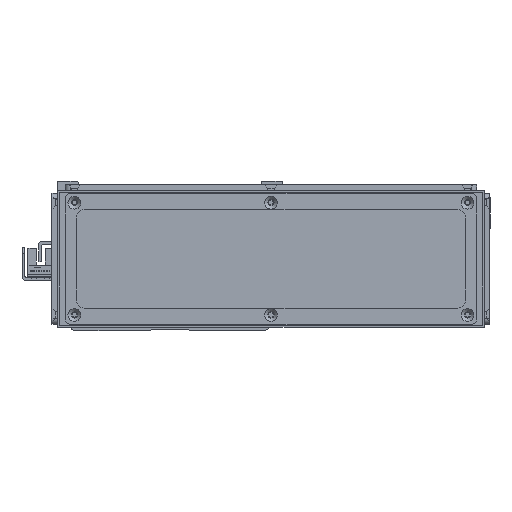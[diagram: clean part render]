
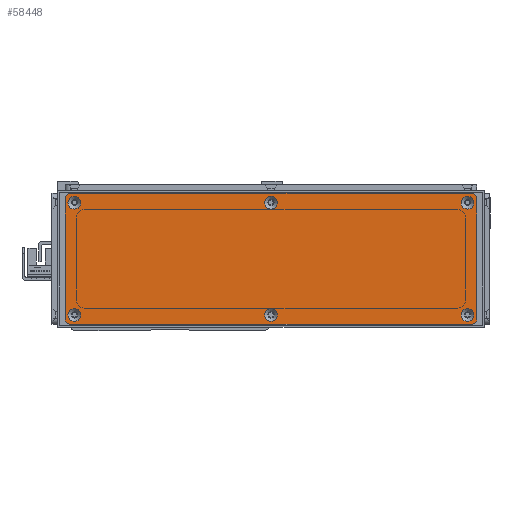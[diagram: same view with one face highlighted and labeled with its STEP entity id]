
A CAD part, front view. The second image highlights one B-rep face of the part: STEP entity #58448.
In plain terms, the highlighted planar face has unit normal (0, -1, 0).
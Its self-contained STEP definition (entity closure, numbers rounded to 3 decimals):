
#2515=FACE_BOUND('',#10032,.T.);
#2516=FACE_BOUND('',#10033,.T.);
#2517=FACE_BOUND('',#10034,.T.);
#2518=FACE_BOUND('',#10035,.T.);
#2519=FACE_BOUND('',#10036,.T.);
#2520=FACE_BOUND('',#10037,.T.);
#3803=CIRCLE('',#62986,3.45);
#3806=CIRCLE('',#62991,3.45);
#3809=CIRCLE('',#62996,3.45);
#3812=CIRCLE('',#63001,3.45);
#3815=CIRCLE('',#63006,3.45);
#3818=CIRCLE('',#63011,3.45);
#3821=CIRCLE('',#63016,3.);
#3823=CIRCLE('',#63019,3.);
#3824=CIRCLE('',#63020,3.);
#3825=CIRCLE('',#63021,3.);
#6681=FACE_OUTER_BOUND('',#10031,.T.);
#10031=EDGE_LOOP('',(#52827,#52828,#52829,#52830,#52831,#52832,#52833,#52834));
#10032=EDGE_LOOP('',(#52835));
#10033=EDGE_LOOP('',(#52836));
#10034=EDGE_LOOP('',(#52837));
#10035=EDGE_LOOP('',(#52838));
#10036=EDGE_LOOP('',(#52839));
#10037=EDGE_LOOP('',(#52840));
#16538=LINE('',#97734,#23094);
#16539=LINE('',#97738,#23095);
#16540=LINE('',#97742,#23096);
#16541=LINE('',#97745,#23097);
#23094=VECTOR('',#77733,10.);
#23095=VECTOR('',#77736,10.);
#23096=VECTOR('',#77739,10.);
#23097=VECTOR('',#77742,10.);
#28607=VERTEX_POINT('',#97664);
#28610=VERTEX_POINT('',#97674);
#28613=VERTEX_POINT('',#97684);
#28616=VERTEX_POINT('',#97694);
#28619=VERTEX_POINT('',#97704);
#28622=VERTEX_POINT('',#97714);
#28625=VERTEX_POINT('',#97724);
#28626=VERTEX_POINT('',#97725);
#28629=VERTEX_POINT('',#97733);
#28630=VERTEX_POINT('',#97735);
#28631=VERTEX_POINT('',#97737);
#28632=VERTEX_POINT('',#97739);
#28633=VERTEX_POINT('',#97741);
#28634=VERTEX_POINT('',#97743);
#36707=EDGE_CURVE('',#28607,#28607,#3803,.T.);
#36712=EDGE_CURVE('',#28610,#28610,#3806,.T.);
#36717=EDGE_CURVE('',#28613,#28613,#3809,.T.);
#36722=EDGE_CURVE('',#28616,#28616,#3812,.T.);
#36727=EDGE_CURVE('',#28619,#28619,#3815,.T.);
#36732=EDGE_CURVE('',#28622,#28622,#3818,.T.);
#36737=EDGE_CURVE('',#28625,#28626,#3821,.T.);
#36741=EDGE_CURVE('',#28625,#28629,#16538,.T.);
#36742=EDGE_CURVE('',#28630,#28629,#3823,.T.);
#36743=EDGE_CURVE('',#28630,#28631,#16539,.T.);
#36744=EDGE_CURVE('',#28632,#28631,#3824,.T.);
#36745=EDGE_CURVE('',#28632,#28633,#16540,.T.);
#36746=EDGE_CURVE('',#28634,#28633,#3825,.T.);
#36747=EDGE_CURVE('',#28634,#28626,#16541,.T.);
#52827=ORIENTED_EDGE('',*,*,#36737,.F.);
#52828=ORIENTED_EDGE('',*,*,#36741,.T.);
#52829=ORIENTED_EDGE('',*,*,#36742,.F.);
#52830=ORIENTED_EDGE('',*,*,#36743,.T.);
#52831=ORIENTED_EDGE('',*,*,#36744,.F.);
#52832=ORIENTED_EDGE('',*,*,#36745,.T.);
#52833=ORIENTED_EDGE('',*,*,#36746,.F.);
#52834=ORIENTED_EDGE('',*,*,#36747,.T.);
#52835=ORIENTED_EDGE('',*,*,#36707,.T.);
#52836=ORIENTED_EDGE('',*,*,#36712,.T.);
#52837=ORIENTED_EDGE('',*,*,#36717,.T.);
#52838=ORIENTED_EDGE('',*,*,#36722,.T.);
#52839=ORIENTED_EDGE('',*,*,#36727,.T.);
#52840=ORIENTED_EDGE('',*,*,#36732,.T.);
#55615=PLANE('',#63018);
#58448=ADVANCED_FACE('',(#6681,#2515,#2516,#2517,#2518,#2519,#2520),#55615,
 .T.);
#62986=AXIS2_PLACEMENT_3D('',#97665,#77653,#77654);
#62991=AXIS2_PLACEMENT_3D('',#97675,#77665,#77666);
#62996=AXIS2_PLACEMENT_3D('',#97685,#77677,#77678);
#63001=AXIS2_PLACEMENT_3D('',#97695,#77689,#77690);
#63006=AXIS2_PLACEMENT_3D('',#97705,#77701,#77702);
#63011=AXIS2_PLACEMENT_3D('',#97715,#77713,#77714);
#63016=AXIS2_PLACEMENT_3D('',#97726,#77725,#77726);
#63018=AXIS2_PLACEMENT_3D('',#97732,#77731,#77732);
#63019=AXIS2_PLACEMENT_3D('',#97736,#77734,#77735);
#63020=AXIS2_PLACEMENT_3D('',#97740,#77737,#77738);
#63021=AXIS2_PLACEMENT_3D('',#97744,#77740,#77741);
#77653=DIRECTION('center_axis',(0.,1.,0.));
#77654=DIRECTION('ref_axis',(1.,0.,0.));
#77665=DIRECTION('center_axis',(0.,1.,0.));
#77666=DIRECTION('ref_axis',(1.,0.,0.));
#77677=DIRECTION('center_axis',(0.,1.,0.));
#77678=DIRECTION('ref_axis',(1.,0.,0.));
#77689=DIRECTION('center_axis',(0.,1.,0.));
#77690=DIRECTION('ref_axis',(1.,0.,0.));
#77701=DIRECTION('center_axis',(0.,1.,0.));
#77702=DIRECTION('ref_axis',(1.,0.,0.));
#77713=DIRECTION('center_axis',(0.,1.,0.));
#77714=DIRECTION('ref_axis',(1.,0.,0.));
#77725=DIRECTION('center_axis',(0.,1.,0.));
#77726=DIRECTION('ref_axis',(-0.707,0.,0.707));
#77731=DIRECTION('center_axis',(0.,-1.,0.));
#77732=DIRECTION('ref_axis',(0.,0.,-1.));
#77733=DIRECTION('',(0.,0.,-1.));
#77734=DIRECTION('center_axis',(0.,1.,0.));
#77735=DIRECTION('ref_axis',(-0.707,0.,-0.707));
#77736=DIRECTION('',(1.,0.,0.));
#77737=DIRECTION('center_axis',(0.,1.,0.));
#77738=DIRECTION('ref_axis',(0.707,0.,-0.707));
#77739=DIRECTION('',(0.,0.,1.));
#77740=DIRECTION('center_axis',(0.,1.,0.));
#77741=DIRECTION('ref_axis',(0.707,0.,0.707));
#77742=DIRECTION('',(-1.,0.,0.));
#97664=CARTESIAN_POINT('',(101.55,-1.5,30.));
#97665=CARTESIAN_POINT('Origin',(105.,-1.5,30.));
#97674=CARTESIAN_POINT('',(-3.45,-1.5,-30.));
#97675=CARTESIAN_POINT('Origin',(0.,-1.5,-30.));
#97684=CARTESIAN_POINT('',(-108.45,-1.5,30.));
#97685=CARTESIAN_POINT('Origin',(-105.,-1.5,30.));
#97694=CARTESIAN_POINT('',(-108.45,-1.5,-30.));
#97695=CARTESIAN_POINT('Origin',(-105.,-1.5,-30.));
#97704=CARTESIAN_POINT('',(-3.45,-1.5,30.));
#97705=CARTESIAN_POINT('Origin',(0.,-1.5,30.));
#97714=CARTESIAN_POINT('',(101.55,-1.5,-30.));
#97715=CARTESIAN_POINT('Origin',(105.,-1.5,-30.));
#97724=CARTESIAN_POINT('',(-110.,-1.5,32.));
#97725=CARTESIAN_POINT('',(-107.,-1.5,35.));
#97726=CARTESIAN_POINT('Origin',(-107.,-1.5,32.));
#97732=CARTESIAN_POINT('Origin',(0.,-1.5,0.));
#97733=CARTESIAN_POINT('',(-110.,-1.5,-32.));
#97734=CARTESIAN_POINT('',(-110.,-1.5,35.));
#97735=CARTESIAN_POINT('',(-107.,-1.5,-35.));
#97736=CARTESIAN_POINT('Origin',(-107.,-1.5,-32.));
#97737=CARTESIAN_POINT('',(107.,-1.5,-35.));
#97738=CARTESIAN_POINT('',(-110.,-1.5,-35.));
#97739=CARTESIAN_POINT('',(110.,-1.5,-32.));
#97740=CARTESIAN_POINT('Origin',(107.,-1.5,-32.));
#97741=CARTESIAN_POINT('',(110.,-1.5,32.));
#97742=CARTESIAN_POINT('',(110.,-1.5,-35.));
#97743=CARTESIAN_POINT('',(107.,-1.5,35.));
#97744=CARTESIAN_POINT('Origin',(107.,-1.5,32.));
#97745=CARTESIAN_POINT('',(110.,-1.5,35.));
